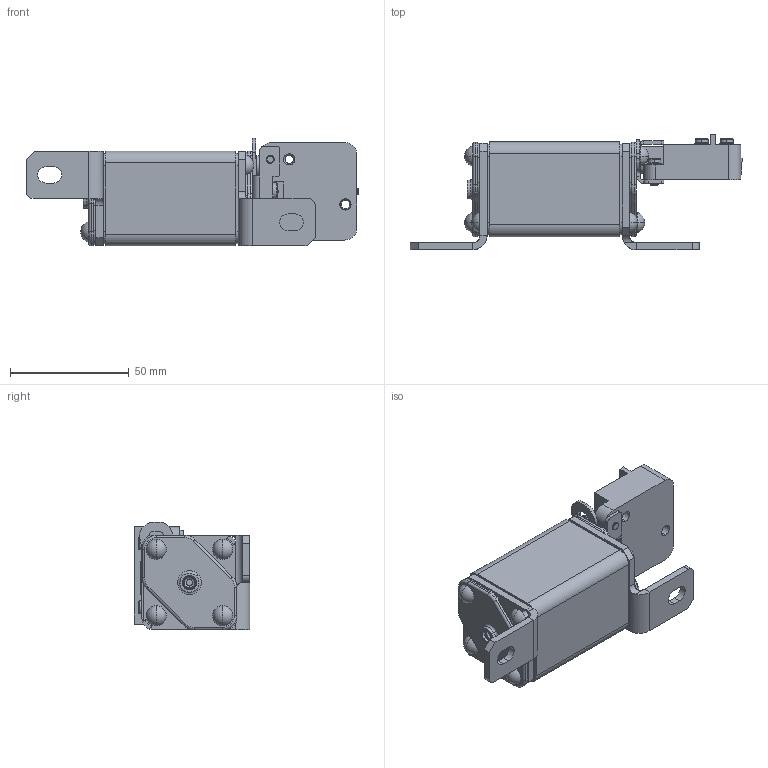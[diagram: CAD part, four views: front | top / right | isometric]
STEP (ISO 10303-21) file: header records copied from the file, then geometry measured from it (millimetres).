
FILE_DESCRIPTION (( 'STEP AP214' ), '1' );
FILE_NAME ('砎槼隰譇膻蠈錪 珫57-31371-XXXA-XXXX-忡曖.STEP', '2023-05-10T05:45:58', ( '' ), ( '' ), 'SwSTEP 2.0', 'SolidWorks 2018', '' );
FILE_SCHEMA (( 'AUTOMOTIVE_DESIGN' ));
Length unit declared in the file: millimetre
Products named in the file (1): 砎槼隰譇膻蠈錪 珫57-31371-XXXA-XXXX-忡曖
Bounding box: 140 x 48.8 x 45.5 mm (x, y, z)
Volume: 131444.9 mm3; surface area: 51300.8 mm2
Topology: 34 solids, 34 shells, 685 faces, 1579 edges, 994 vertices
Faces by surface type: cylinder 309, plane 249, torus 78, cone 32, sphere 16, bspline 1
Entity records: 27741 total; most frequent: DIRECTION 3755, CARTESIAN_POINT 3406, ORIENTED_EDGE 3158, EDGE_CURVE 1579, AXIS2_PLACEMENT_3D 1499, VERTEX_POINT 994, EDGE_LOOP 821, CIRCLE 814
